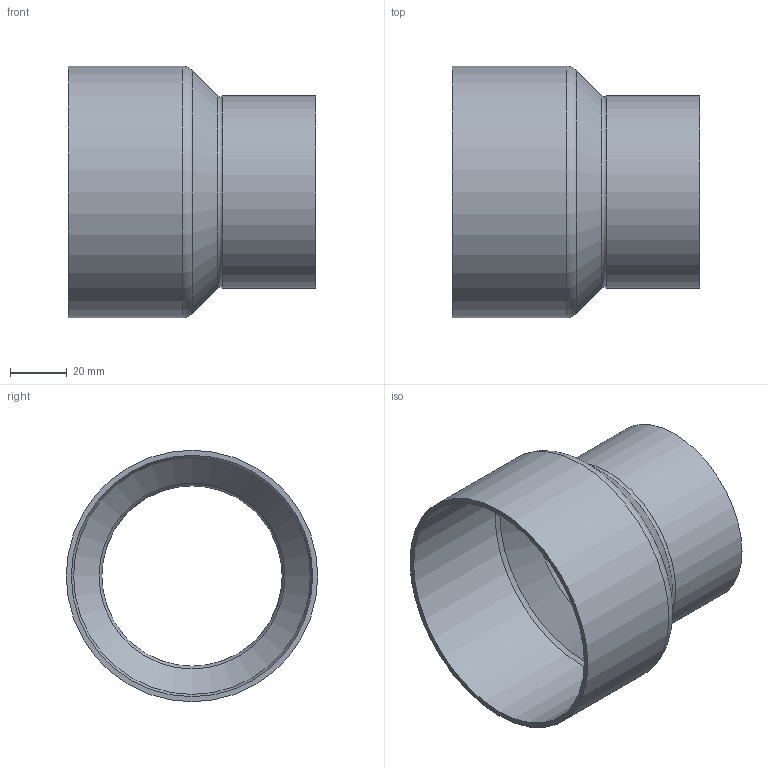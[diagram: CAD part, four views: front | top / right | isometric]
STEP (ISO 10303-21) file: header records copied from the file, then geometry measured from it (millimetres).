
FILE_DESCRIPTION((''),'2;1');
FILE_NAME('G:\SANHA-Ternat\Technik\Management\Bouwmaten + markeringen\z-maattekeningen 3D\5000\5243\52438964.stp','2018-02-20T12:51:21',('vdvijverd'),(''),'Autodesk Inventor 2009','Autodesk Inventor 2009','');
FILE_SCHEMA(('AUTOMOTIVE_DESIGN { 1 0 10303 214 1 1 1 1 }'));
Length unit declared in the file: millimetre
Products named in the file (1): 52438964
Bounding box: 87.5 x 88.9 x 88.9 mm (x, y, z)
Volume: 40337.6 mm3; surface area: 45463.8 mm2
Topology: 1 solids, 1 shells, 12 faces, 22 edges, 12 vertices
Faces by surface type: cylinder 4, torus 2, cone 2, bspline 2, plane 2
Full cylindrical faces by diameter (mm): 64.3 x1, 67.9 x1, 85.3 x1, 88.9 x1
Entity records: 372 total; most frequent: CARTESIAN_POINT 143, DIRECTION 46, ORIENTED_EDGE 24, EDGE_LOOP 24, AXIS2_PLACEMENT_3D 23, VERTEX_POINT 12, CIRCLE 12, EDGE_CURVE 12
